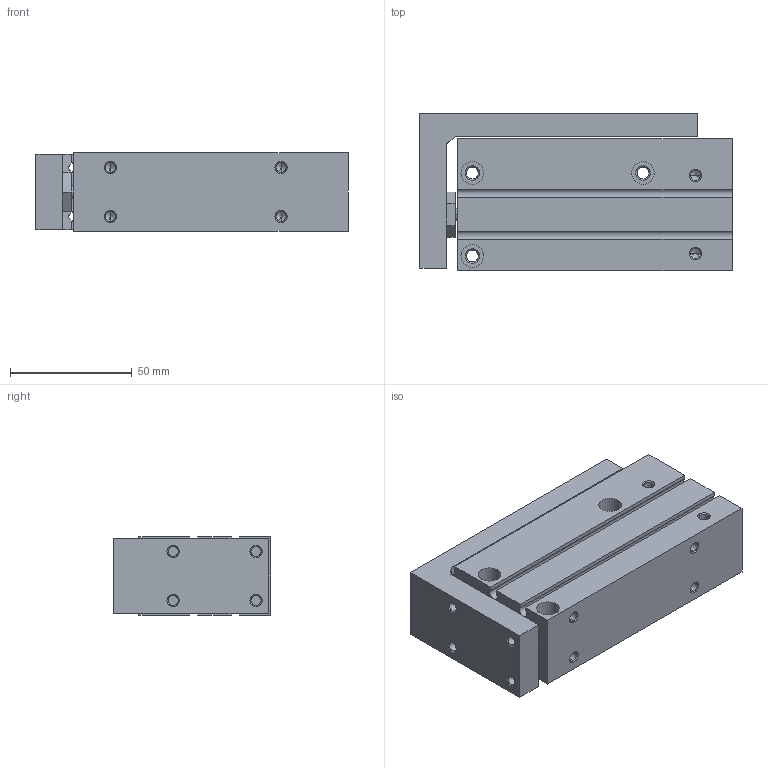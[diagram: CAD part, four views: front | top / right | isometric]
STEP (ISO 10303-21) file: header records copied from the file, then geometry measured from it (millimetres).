
FILE_DESCRIPTION (( 'STEP AP203' ), '1' );
FILE_NAME ('CXH20-60.STEP', '2020-04-16T18:31:22', ( '' ), ( '' ), 'SwSTEP 2.0', 'SolidWorks 2019', '' );
FILE_SCHEMA (( 'CONFIG_CONTROL_DESIGN' ));
Length unit declared in the file: millimetre
Products named in the file (1): CXH20-60
Bounding box: 128 x 64.5 x 32 mm (x, y, z)
Volume: 214869.8 mm3; surface area: 53787.2 mm2
Topology: 2 solids, 2 shells, 218 faces, 519 edges, 300 vertices
Faces by surface type: cone 94, cylinder 80, plane 44
Entity records: 6288 total; most frequent: DIRECTION 1147, CARTESIAN_POINT 1120, ORIENTED_EDGE 982, EDGE_CURVE 491, AXIS2_PLACEMENT_3D 443, VERTEX_POINT 300, EDGE_LOOP 267, LINE 261
